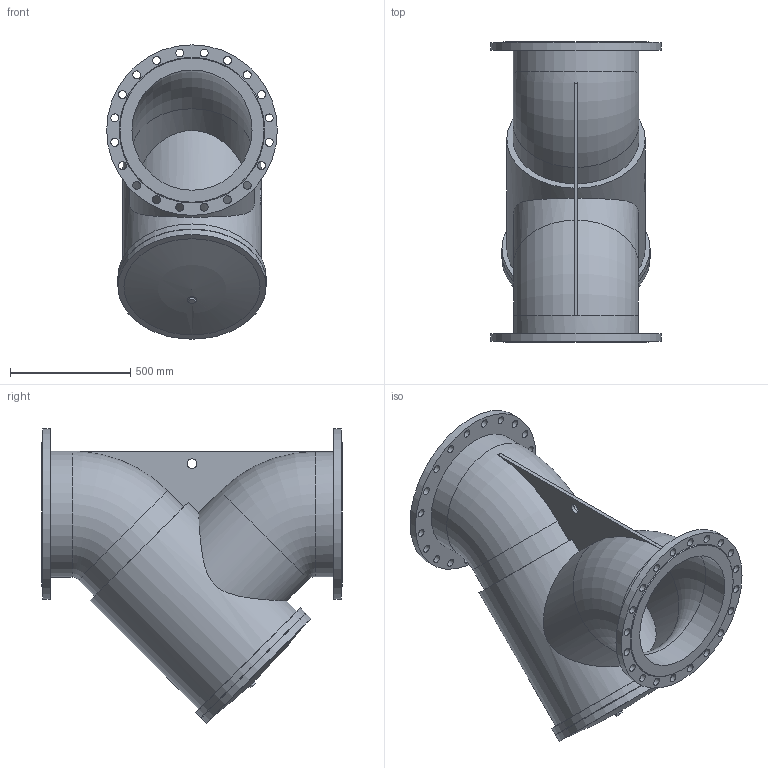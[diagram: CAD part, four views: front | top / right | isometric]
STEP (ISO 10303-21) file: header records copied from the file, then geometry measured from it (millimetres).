
FILE_DESCRIPTION(('STEP AP203'), '1');
FILE_NAME('Ôèëüòð ñåò÷àòûé ôëàíöåâûé 021Y DN500 PN16', '', ('UNSPECIFIED'), ('UNSPECIFIED'), 'ASCON STEP Converter 1.6', 'ASCON Math Kernel', '');
FILE_SCHEMA(('CONFIG_CONTROL_DESIGN'));
Length unit declared in the file: millimetre
Bounding box: 710 x 1250 x 1225 mm (x, y, z)
Volume: 217414017.8 mm3; surface area: 6107239.1 mm2
Topology: 1 solids, 1 shells, 106 faces, 263 edges, 172 vertices
Faces by surface type: cylinder 64, plane 35, torus 4, cone 2, sphere 1
Full cylindrical faces by diameter (mm): 33 x40, 40 x2, 500 x4, 520 x1, 524 x1, 576 x1, 604 x1, 616 x2, 710 x2
Entity records: 5170 total; most frequent: CARTESIAN_POINT 1745, DIRECTION 531, ORIENTED_EDGE 402, EDGE_LOOP 262, AXIS2_PLACEMENT_3D 238, EDGE_CURVE 201, VERTEX_POINT 171, FACE_BOUND 147
